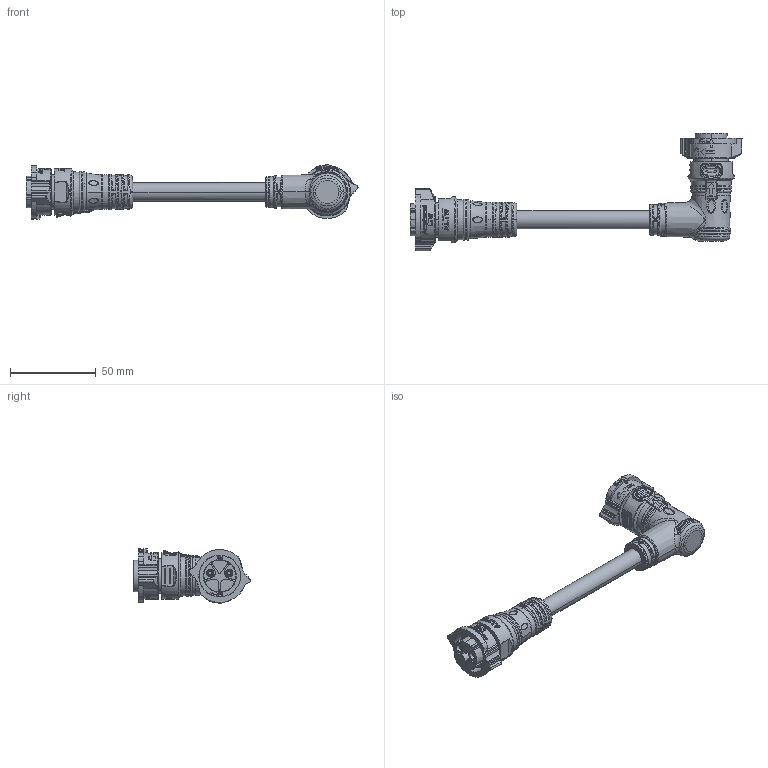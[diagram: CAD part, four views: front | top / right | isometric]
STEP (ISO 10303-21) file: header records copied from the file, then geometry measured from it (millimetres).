
FILE_DESCRIPTION((''),'2;1');
FILE_NAME('AB-DC02FL-DCBR-QEXXX_SW0001','2021-10-18T',('L100003'),(''),'PRO/ENGINEER BY PARAMETRIC TECHNOLOGY CORPORATION, 2017170','PRO/ENGINEER BY PARAMETRIC TECHNOLOGY CORPORATION, 2017170','');
FILE_SCHEMA(('CONFIG_CONTROL_DESIGN'));
Products named in the file (1): AB-DC02FL-DCBR-QEXXX_SW0001
Bounding box: 193.9 x 68.45 x 31.6 mm (x, y, z)
Volume: 66426.8 mm3; surface area: 23724.5 mm2
Topology: 2 solids, 2 shells, 1958 faces, 5397 edges, 3508 vertices
Faces by surface type: plane 689, extrusion 436, bspline 358, cylinder 229, cone 116, torus 100, revolution 16, sphere 14
Entity records: 127427 total; most frequent: CARTESIAN_POINT 82550, ORIENTED_EDGE 10790, DIRECTION 6901, EDGE_CURVE 5395, VERTEX_POINT 3507, B_SPLINE_CURVE_WITH_KNOTS 2866, AXIS2_PLACEMENT_3D 2320, VECTOR 2245
